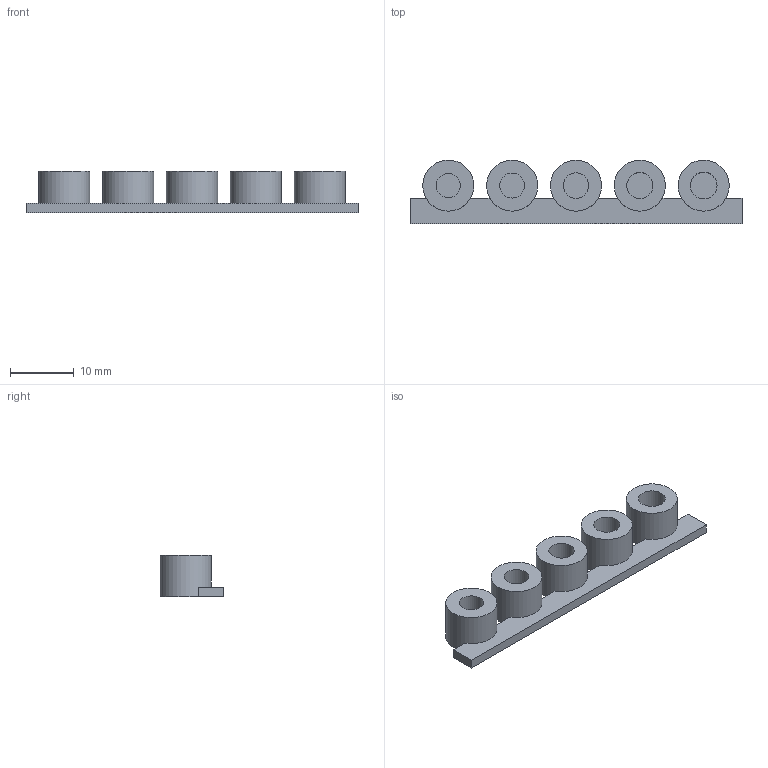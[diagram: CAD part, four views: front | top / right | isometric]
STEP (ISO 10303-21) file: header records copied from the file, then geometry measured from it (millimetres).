
FILE_DESCRIPTION(('FreeCAD Model'),'2;1');
FILE_NAME('Open CASCADE Shape Model','2026-09-11T23:32:08',('FreeCAD'),( 'FreeCAD'),'Open CASCADE STEP processor 7.8','FreeCAD','Unknown');
FILE_SCHEMA(('AUTOMOTIVE_DESIGN { 1 0 10303 214 1 1 1 1 }'));
Length unit declared in the file: millimetre
Products named in the file (1): Open CASCADE STEP translator 7.8 21
Bounding box: 52 x 10 x 6.5 mm (x, y, z)
Volume: 1554.2 mm3; surface area: 2007.7 mm2
Topology: 1 solids, 1 shells, 31 faces, 72 edges, 48 vertices
Faces by surface type: plane 21, cylinder 10
Full cylindrical faces by diameter (mm): 3.8 x1, 3.9 x1, 4 x1, 4.1 x1, 4.2 x1, 8 x5
Entity records: 906 total; most frequent: DIRECTION 166, CARTESIAN_POINT 152, ORIENTED_EDGE 144, EDGE_CURVE 72, AXIS2_PLACEMENT_3D 62, VERTEX_POINT 48, LINE 42, VECTOR 42
